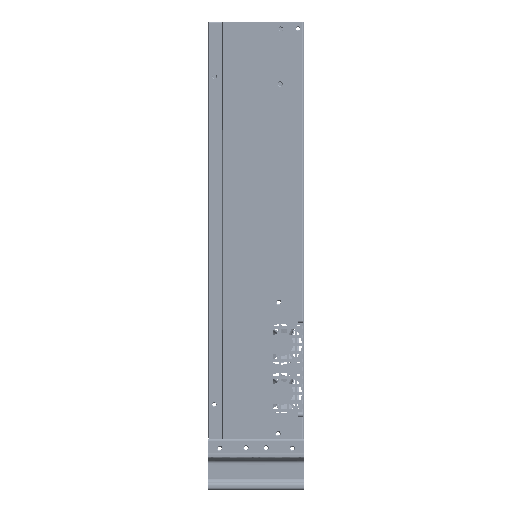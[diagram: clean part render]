
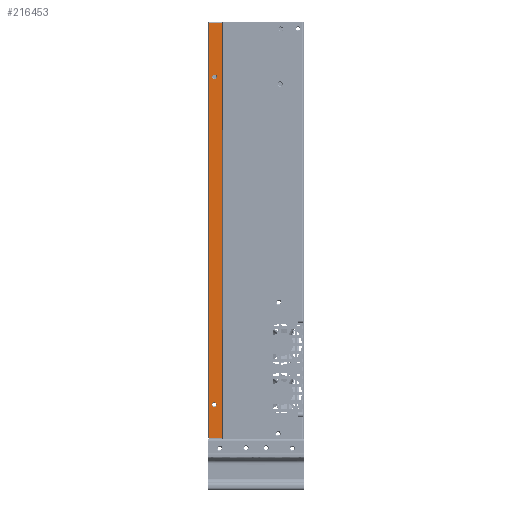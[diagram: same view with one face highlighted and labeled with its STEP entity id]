
A CAD part, left-side view. The second image highlights one B-rep face of the part: STEP entity #216453.
In plain terms, the highlighted planar face has unit normal (-1, 0, 0).
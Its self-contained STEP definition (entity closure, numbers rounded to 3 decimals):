
#17218 = DIRECTION ( 'NONE',  ( -1., 0., 0. ) ) ;
#28858 = CIRCLE ( 'NONE', #850092, 0.2 ) ;
#49579 = EDGE_CURVE ( 'NONE', #464747, #1051119, #399839, .T. ) ;
#90028 = VECTOR ( 'NONE', #449713, 1000. ) ;
#94485 = CIRCLE ( 'NONE', #775219, 2.171 ) ;
#105288 = CARTESIAN_POINT ( 'NONE',  ( 0., 44., -1. ) ) ;
#112023 = VECTOR ( 'NONE', #615340, 1000. ) ;
#122511 = EDGE_CURVE ( 'NONE', #762076, #521484, #887040, .T. ) ;
#140564 = EDGE_LOOP ( 'NONE', ( #890955, #672740 ) ) ;
#182574 = ORIENTED_EDGE ( 'NONE', *, *, #505546, .F. ) ;
#186482 = CARTESIAN_POINT ( 'NONE',  ( 0., 39.116, -50.582 ) ) ;
#190318 = CARTESIAN_POINT ( 'NONE',  ( 0., 39.48, -350.432 ) ) ;
#192652 = DIRECTION ( 'NONE',  ( 0., 0., 1. ) ) ;
#197861 = DIRECTION ( 'NONE',  ( 0., 0.707, 0.707 ) ) ;
#216453 = ADVANCED_FACE ( 'NONE', ( #865428, #373128, #291042 ), #1024227, .T. ) ;
#217329 = CARTESIAN_POINT ( 'NONE',  ( 0., 39.48, -352.603 ) ) ;
#236509 = EDGE_CURVE ( 'NONE', #912857, #467562, #526289, .T. ) ;
#238028 = DIRECTION ( 'NONE',  ( -1., 0., 0. ) ) ;
#256975 = CARTESIAN_POINT ( 'NONE',  ( 0., 44.2, -1. ) ) ;
#285439 = DIRECTION ( 'NONE',  ( 1., 0., 0. ) ) ;
#291042 = FACE_OUTER_BOUND ( 'NONE', #995375, .T. ) ;
#296192 = CARTESIAN_POINT ( 'NONE',  ( 0., 32.5, -292. ) ) ;
#310539 = EDGE_CURVE ( 'NONE', #497965, #988898, #94485, .T. ) ;
#331424 = LINE ( 'NONE', #424168, #112023 ) ;
#333975 = CIRCLE ( 'NONE', #840694, 2.171 ) ;
#336453 = CARTESIAN_POINT ( 'NONE',  ( 0., 32.5, -383.8 ) ) ;
#373128 = FACE_BOUND ( 'NONE', #786603, .T. ) ;
#383654 = LINE ( 'NONE', #296192, #457739 ) ;
#397991 = EDGE_CURVE ( 'NONE', #521484, #646913, #331424, .T. ) ;
#399839 = CIRCLE ( 'NONE', #801921, 2.171 ) ;
#420245 = CIRCLE ( 'NONE', #1031794, 2.171 ) ;
#424168 = CARTESIAN_POINT ( 'NONE',  ( 0., 44.2, -292. ) ) ;
#449713 = DIRECTION ( 'NONE',  ( 0., -1., 0. ) ) ;
#457739 = VECTOR ( 'NONE', #536882, 1000. ) ;
#464747 = VERTEX_POINT ( 'NONE', #845952 ) ;
#467562 = VERTEX_POINT ( 'NONE', #687241 ) ;
#497965 = VERTEX_POINT ( 'NONE', #670478 ) ;
#505546 = EDGE_CURVE ( 'NONE', #646913, #912857, #28858, .T. ) ;
#519818 = DIRECTION ( 'NONE',  ( 0., 0., -1. ) ) ;
#521484 = VERTEX_POINT ( 'NONE', #894761 ) ;
#526289 = LINE ( 'NONE', #690516, #90028 ) ;
#526317 = DIRECTION ( 'NONE',  ( -1., 0., 0. ) ) ;
#536882 = DIRECTION ( 'NONE',  ( 0., 0., -1. ) ) ;
#552612 = ORIENTED_EDGE ( 'NONE', *, *, #122511, .F. ) ;
#555494 = CARTESIAN_POINT ( 'NONE',  ( 0., 39.116, -50.582 ) ) ;
#563547 = CARTESIAN_POINT ( 'NONE',  ( 0., 39.116, -48.411 ) ) ;
#599689 = ORIENTED_EDGE ( 'NONE', *, *, #49579, .F. ) ;
#612767 = DIRECTION ( 'NONE',  ( -1., 0., 0. ) ) ;
#615340 = DIRECTION ( 'NONE',  ( 0., 0., 1. ) ) ;
#635510 = DIRECTION ( 'NONE',  ( 0., 1., 0. ) ) ;
#646913 = VERTEX_POINT ( 'NONE', #256975 ) ;
#670478 = CARTESIAN_POINT ( 'NONE',  ( 0., 39.48, -354.774 ) ) ;
#672740 = ORIENTED_EDGE ( 'NONE', *, *, #951444, .F. ) ;
#687241 = CARTESIAN_POINT ( 'NONE',  ( 0., 32.5, -0.8 ) ) ;
#689933 = EDGE_CURVE ( 'NONE', #1051119, #464747, #333975, .T. ) ;
#690516 = CARTESIAN_POINT ( 'NONE',  ( 0., 44., -0.8 ) ) ;
#700272 = CARTESIAN_POINT ( 'NONE',  ( 0., 39.48, -352.603 ) ) ;
#705004 = CARTESIAN_POINT ( 'NONE',  ( 0., 44., -0.8 ) ) ;
#707307 = ORIENTED_EDGE ( 'NONE', *, *, #397991, .F. ) ;
#722979 = CARTESIAN_POINT ( 'NONE',  ( 0., 43.875, -383.8 ) ) ;
#725092 = DIRECTION ( 'NONE',  ( 0., 0., -1. ) ) ;
#762076 = VERTEX_POINT ( 'NONE', #336453 ) ;
#765530 = VECTOR ( 'NONE', #635510, 1000. ) ;
#765802 = ORIENTED_EDGE ( 'NONE', *, *, #236509, .F. ) ;
#775219 = AXIS2_PLACEMENT_3D ( 'NONE', #217329, #972104, #1064976 ) ;
#786603 = EDGE_LOOP ( 'NONE', ( #599689, #957084 ) ) ;
#801921 = AXIS2_PLACEMENT_3D ( 'NONE', #186482, #17218, #930388 ) ;
#840694 = AXIS2_PLACEMENT_3D ( 'NONE', #555494, #238028, #725092 ) ;
#845952 = CARTESIAN_POINT ( 'NONE',  ( 0., 39.116, -52.752 ) ) ;
#850092 = AXIS2_PLACEMENT_3D ( 'NONE', #105288, #285439, #197861 ) ;
#865428 = FACE_BOUND ( 'NONE', #140564, .T. ) ;
#887040 = LINE ( 'NONE', #722979, #765530 ) ;
#890955 = ORIENTED_EDGE ( 'NONE', *, *, #310539, .F. ) ;
#894761 = CARTESIAN_POINT ( 'NONE',  ( 0., 44.2, -383.8 ) ) ;
#912857 = VERTEX_POINT ( 'NONE', #705004 ) ;
#930388 = DIRECTION ( 'NONE',  ( 0., 0., -1. ) ) ;
#942015 = CARTESIAN_POINT ( 'NONE',  ( 0., 44., -384. ) ) ;
#951444 = EDGE_CURVE ( 'NONE', #988898, #497965, #420245, .T. ) ;
#957084 = ORIENTED_EDGE ( 'NONE', *, *, #689933, .F. ) ;
#972104 = DIRECTION ( 'NONE',  ( -1., 0., 0. ) ) ;
#972884 = EDGE_CURVE ( 'NONE', #467562, #762076, #383654, .T. ) ;
#988898 = VERTEX_POINT ( 'NONE', #190318 ) ;
#995375 = EDGE_LOOP ( 'NONE', ( #765802, #182574, #707307, #552612, #1057203 ) ) ;
#1009820 = AXIS2_PLACEMENT_3D ( 'NONE', #942015, #526317, #192652 ) ;
#1024227 = PLANE ( 'NONE',  #1009820 ) ;
#1031794 = AXIS2_PLACEMENT_3D ( 'NONE', #700272, #612767, #519818 ) ;
#1051119 = VERTEX_POINT ( 'NONE', #563547 ) ;
#1057203 = ORIENTED_EDGE ( 'NONE', *, *, #972884, .F. ) ;
#1064976 = DIRECTION ( 'NONE',  ( 0., 0., -1. ) ) ;
